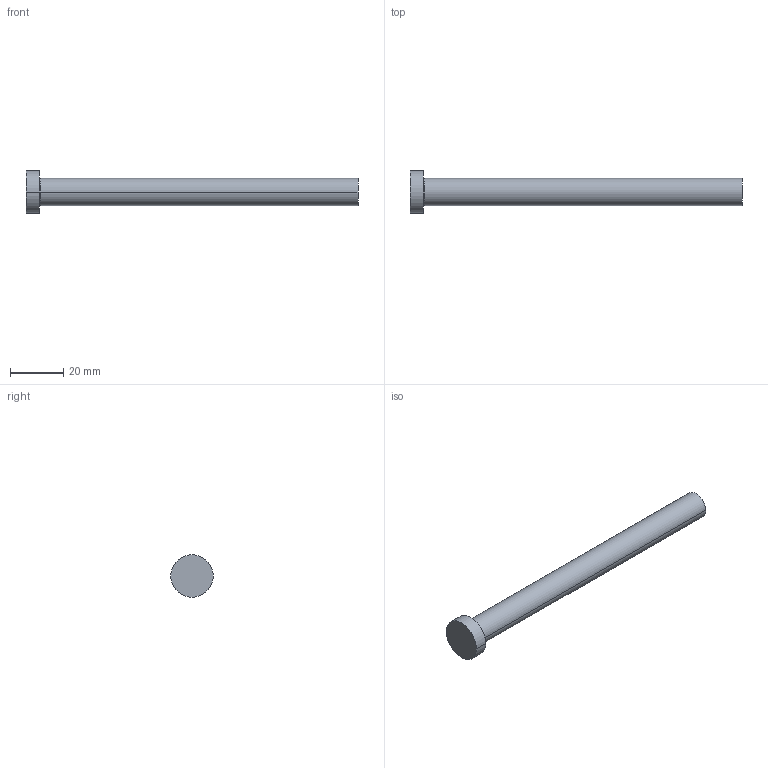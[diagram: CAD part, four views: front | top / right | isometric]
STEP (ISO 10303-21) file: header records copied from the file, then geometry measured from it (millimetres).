
FILE_DESCRIPTION (( 'STEP AP214' ), '1' );
FILE_NAME ('A-10,2x125.STEP', '2020-05-29T15:58:12', ( 'August' ), ( '' ), 'SwSTEP 2.0', 'SolidWorks 2018', '' );
FILE_SCHEMA (( 'AUTOMOTIVE_DESIGN' ));
Length unit declared in the file: millimetre
Products named in the file (1): A-10,2x125
Bounding box: 125 x 16 x 16 mm (x, y, z)
Volume: 10812.6 mm3; surface area: 4492 mm2
Topology: 1 solids, 1 shells, 9 faces, 16 edges, 10 vertices
Faces by surface type: cylinder 4, plane 3, torus 2
Entity records: 260 total; most frequent: DIRECTION 48, CARTESIAN_POINT 36, ORIENTED_EDGE 32, AXIS2_PLACEMENT_3D 22, EDGE_CURVE 16, CIRCLE 12, EDGE_LOOP 10, VERTEX_POINT 10
